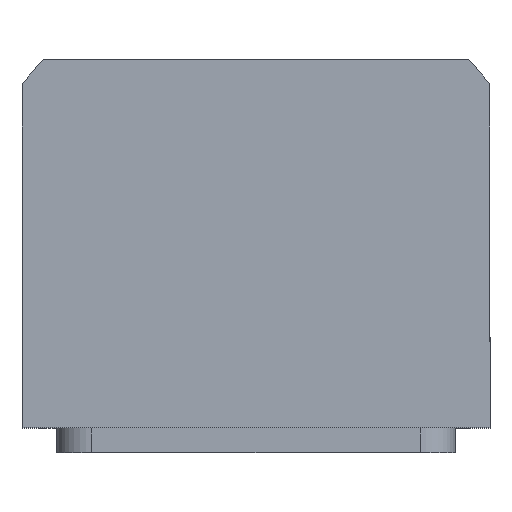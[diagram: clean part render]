
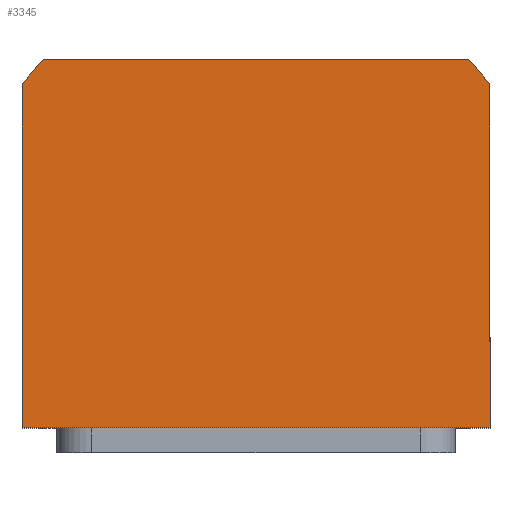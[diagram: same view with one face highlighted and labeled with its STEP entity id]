
A CAD part, top view. The second image highlights one B-rep face of the part: STEP entity #3345.
In plain terms, the highlighted planar face has unit normal (0, 0, 1).
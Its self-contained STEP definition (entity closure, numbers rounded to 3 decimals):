
#100 = CARTESIAN_POINT ( 'NONE',  ( -47., -34., 32.5 ) ) ;
#227 = CARTESIAN_POINT ( 'NONE',  ( 47., -34., 32.5 ) ) ;
#639 = CARTESIAN_POINT ( 'NONE',  ( -42.688, 40., 32.5 ) ) ;
#1123 = DIRECTION ( 'NONE',  ( 0., 0., 1. ) ) ;
#1263 = VERTEX_POINT ( 'NONE', #10146 ) ;
#1552 = VECTOR ( 'NONE', #7858, 1000. ) ;
#1568 = DIRECTION ( 'NONE',  ( -1., 0., 0. ) ) ;
#1667 = LINE ( 'NONE', #4091, #5775 ) ;
#1922 = CARTESIAN_POINT ( 'NONE',  ( 0., 0., 32.5 ) ) ;
#2149 = CARTESIAN_POINT ( 'NONE',  ( 47., 34.832, 32.5 ) ) ;
#2336 = DIRECTION ( 'NONE',  ( 0., 1., 0. ) ) ;
#2538 = VECTOR ( 'NONE', #2336, 1000. ) ;
#2649 = VERTEX_POINT ( 'NONE', #6290 ) ;
#2653 = CARTESIAN_POINT ( 'NONE',  ( 47., 34.832, 32.5 ) ) ;
#2838 = EDGE_CURVE ( 'NONE', #9649, #7648, #4216, .T. ) ;
#2919 = DIRECTION ( 'NONE',  ( 0., 0., 1. ) ) ;
#3213 = VECTOR ( 'NONE', #8317, 1000. ) ;
#3345 = ADVANCED_FACE ( 'NONE', ( #9042 ), #10765, .T. ) ;
#3497 = DIRECTION ( 'NONE',  ( 1., 0., 0. ) ) ;
#3649 = DIRECTION ( 'NONE',  ( 1., 0., 0. ) ) ;
#3845 = ORIENTED_EDGE ( 'NONE', *, *, #8698, .T. ) ;
#4091 = CARTESIAN_POINT ( 'NONE',  ( -42.688, 40., 32.5 ) ) ;
#4107 = ORIENTED_EDGE ( 'NONE', *, *, #5438, .T. ) ;
#4216 = CIRCLE ( 'NONE', #6076, 58.5 ) ;
#4568 = EDGE_LOOP ( 'NONE', ( #5701, #10432, #4107, #3845, #8256, #10449 ) ) ;
#4673 = CARTESIAN_POINT ( 'NONE',  ( 0., 0., 32.5 ) ) ;
#5417 = EDGE_CURVE ( 'NONE', #2649, #10409, #5535, .T. ) ;
#5438 = EDGE_CURVE ( 'NONE', #10279, #1263, #8135, .T. ) ;
#5479 = DIRECTION ( 'NONE',  ( 1., 0., 0. ) ) ;
#5535 = LINE ( 'NONE', #10197, #3213 ) ;
#5701 = ORIENTED_EDGE ( 'NONE', *, *, #5417, .T. ) ;
#5775 = VECTOR ( 'NONE', #1568, 1000. ) ;
#6076 = AXIS2_PLACEMENT_3D ( 'NONE', #7948, #7772, #3497 ) ;
#6290 = CARTESIAN_POINT ( 'NONE',  ( -47., -34., 32.5 ) ) ;
#6864 = AXIS2_PLACEMENT_3D ( 'NONE', #1922, #2919, #3649 ) ;
#7648 = VERTEX_POINT ( 'NONE', #7806 ) ;
#7772 = DIRECTION ( 'NONE',  ( 0., 0., 1. ) ) ;
#7806 = CARTESIAN_POINT ( 'NONE',  ( -47., 34.832, 32.5 ) ) ;
#7858 = DIRECTION ( 'NONE',  ( 0., -1., 0. ) ) ;
#7948 = CARTESIAN_POINT ( 'NONE',  ( 0., 0., 32.5 ) ) ;
#8135 = CIRCLE ( 'NONE', #9529, 58.5 ) ;
#8256 = ORIENTED_EDGE ( 'NONE', *, *, #2838, .T. ) ;
#8317 = DIRECTION ( 'NONE',  ( 1., 0., 0. ) ) ;
#8698 = EDGE_CURVE ( 'NONE', #1263, #9649, #1667, .T. ) ;
#8992 = LINE ( 'NONE', #2149, #2538 ) ;
#9042 = FACE_OUTER_BOUND ( 'NONE', #4568, .T. ) ;
#9529 = AXIS2_PLACEMENT_3D ( 'NONE', #4673, #1123, #5479 ) ;
#9649 = VERTEX_POINT ( 'NONE', #639 ) ;
#10028 = EDGE_CURVE ( 'NONE', #10409, #10279, #8992, .T. ) ;
#10146 = CARTESIAN_POINT ( 'NONE',  ( 42.688, 40., 32.5 ) ) ;
#10194 = LINE ( 'NONE', #100, #1552 ) ;
#10197 = CARTESIAN_POINT ( 'NONE',  ( 47., -34., 32.5 ) ) ;
#10279 = VERTEX_POINT ( 'NONE', #2653 ) ;
#10409 = VERTEX_POINT ( 'NONE', #227 ) ;
#10432 = ORIENTED_EDGE ( 'NONE', *, *, #10028, .T. ) ;
#10449 = ORIENTED_EDGE ( 'NONE', *, *, #10903, .T. ) ;
#10765 = PLANE ( 'NONE',  #6864 ) ;
#10903 = EDGE_CURVE ( 'NONE', #7648, #2649, #10194, .T. ) ;
